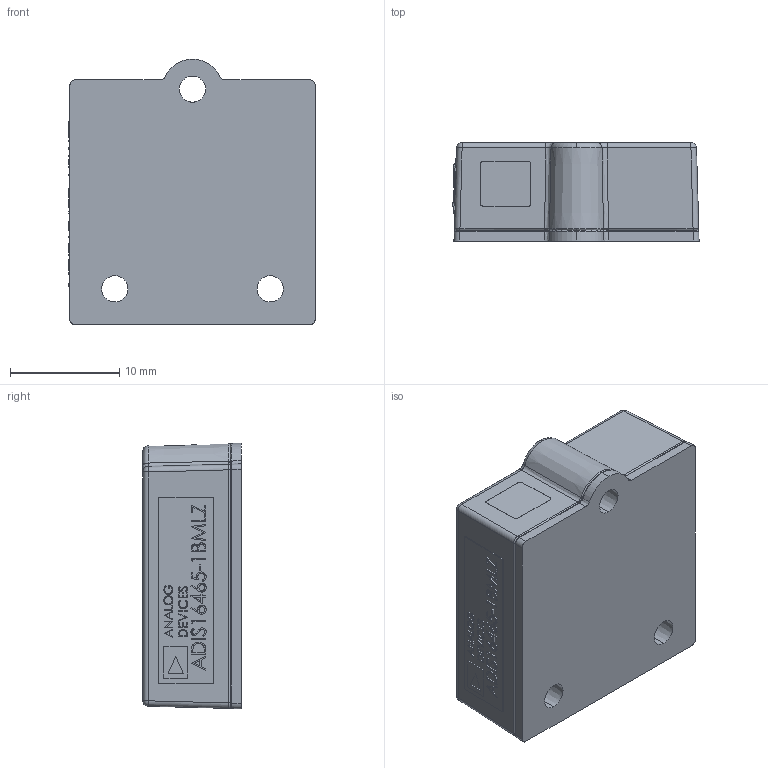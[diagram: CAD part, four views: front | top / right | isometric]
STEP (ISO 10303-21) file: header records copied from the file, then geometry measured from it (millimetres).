
FILE_DESCRIPTION (( 'STEP AP203' ), '1' );
FILE_NAME ('ADIS16465-1BMLZ.STEP', '2017-11-30T19:55:43', ( '' ), ( '' ), 'SwSTEP 2.0', 'SolidWorks 2016', '' );
FILE_SCHEMA (( 'CONFIG_CONTROL_DESIGN' ));
Length unit declared in the file: millimetre
Products named in the file (5): ADiS16460 Assembly_HRB2_CDS_3-17-16; ADIS16465-1BMLZ; ADIS16460_Lid Rev5_HRB2_No-Skirt_CDS_3-17-16; FTMH-Conn-Stacker_14Pin; ADIS16460_Base rev4_HRB2_No Skirt_CDS_3-17-15
Assembly tree (4 placements, depth 3):
  ADIS16465-1BMLZ
    ADIS16460_Base rev4_HRB2_No Skirt_CDS_3-17-15
    ADiS16460 Assembly_HRB2_CDS_3-17-16
      FTMH-Conn-Stacker_14Pin
    ADIS16460_Lid Rev5_HRB2_No-Skirt_CDS_3-17-16
Bounding box: 22.49 x 9 x 24.3 mm (x, y, z)
Volume: 2281.6 mm3; surface area: 4099.3 mm2
Topology: 32 solids, 34 shells, 1485 faces, 3998 edges, 2581 vertices
Faces by surface type: plane 960, bspline 312, cylinder 119, torus 38, cone 38, sphere 18
Entity records: 60687 total; most frequent: CARTESIAN_POINT 25311, ORIENTED_EDGE 7704, DIRECTION 6037, EDGE_CURVE 3978, VECTOR 2907, LINE 2907, VERTEX_POINT 2577, EDGE_LOOP 1629
